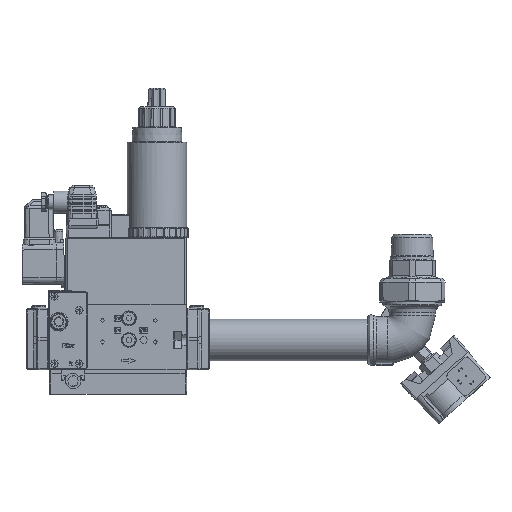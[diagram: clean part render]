
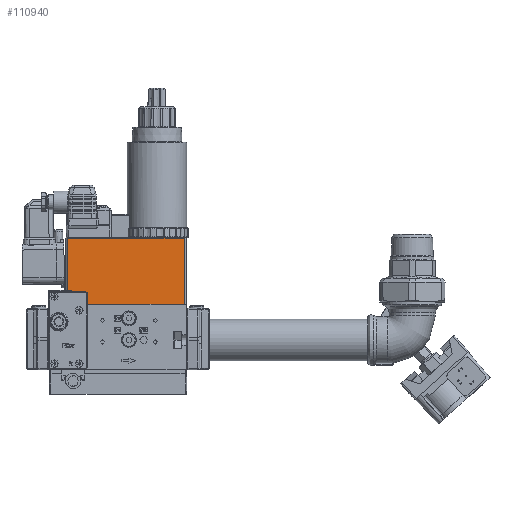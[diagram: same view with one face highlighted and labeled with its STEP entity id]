
A CAD part, top view. The second image highlights one B-rep face of the part: STEP entity #110940.
In plain terms, the highlighted planar face has unit normal (0, 0.009, 1).
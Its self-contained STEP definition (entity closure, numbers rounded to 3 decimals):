
#420 = FACE_OUTER_BOUND ( 'NONE', #80807, .T. ) ;
#1080 = CARTESIAN_POINT ( 'NONE',  ( -35.148, -49.801, 47.376 ) ) ;
#3985 = CARTESIAN_POINT ( 'NONE',  ( -21.8, -51.303, 47.389 ) ) ;
#9167 = ORIENTED_EDGE ( 'NONE', *, *, #35002, .T. ) ;
#11226 = DIRECTION ( 'NONE',  ( -0.009, 1., -0.009 ) ) ;
#14499 = CARTESIAN_POINT ( 'NONE',  ( -21.322, -52.195, 47.397 ) ) ;
#15458 = VECTOR ( 'NONE', #119264, 1000. ) ;
#15482 = CARTESIAN_POINT ( 'NONE',  ( -35.136, -51.195, 47.388 ) ) ;
#19372 = LINE ( 'NONE', #21623, #138141 ) ;
#20016 = CARTESIAN_POINT ( 'NONE',  ( -21.322, 6.358, 46.886 ) ) ;
#21305 = VERTEX_POINT ( 'NONE', #139347 ) ;
#21623 = CARTESIAN_POINT ( 'NONE',  ( -35.136, -51.195, 47.388 ) ) ;
#22361 = EDGE_CURVE ( 'NONE', #65450, #60379, #110186, .T. ) ;
#27605 = CARTESIAN_POINT ( 'NONE',  ( -38.771, 3.008, 46.915 ) ) ;
#33036 = LINE ( 'NONE', #145796, #47846 ) ;
#35002 = EDGE_CURVE ( 'NONE', #60379, #67151, #140701, .T. ) ;
#36393 = CARTESIAN_POINT ( 'NONE',  ( -45.028, 6.358, 46.886 ) ) ;
#36594 = LINE ( 'NONE', #27605, #15458 ) ;
#36994 = CARTESIAN_POINT ( 'NONE',  ( -22.06, -51.195, 47.388 ) ) ;
#37262 = EDGE_CURVE ( 'NONE', #39430, #59383, #61503, .T. ) ;
#37291 = VECTOR ( 'NONE', #38892, 1000. ) ;
#38892 = DIRECTION ( 'NONE',  ( 1., 0., 0. ) ) ;
#39430 = VERTEX_POINT ( 'NONE', #15482 ) ;
#41796 = CARTESIAN_POINT ( 'NONE',  ( -38.771, 3.008, 46.915 ) ) ;
#44190 = CARTESIAN_POINT ( 'NONE',  ( 79.337, 3.008, 46.915 ) ) ;
#46985 = PLANE ( 'NONE',  #113344 ) ;
#47846 = VECTOR ( 'NONE', #11226, 1000. ) ;
#51128 = ORIENTED_EDGE ( 'NONE', *, *, #37262, .T. ) ;
#51342 = CARTESIAN_POINT ( 'NONE',  ( -22.322, -51.195, 47.388 ) ) ;
#53072 = EDGE_CURVE ( 'NONE', #65450, #94648, #36594, .T. ) ;
#57134 = VECTOR ( 'NONE', #110045, 1000. ) ;
#59383 = VERTEX_POINT ( 'NONE', #86185 ) ;
#60379 = VERTEX_POINT ( 'NONE', #62195 ) ;
#61503 = LINE ( 'NONE', #129096, #37291 ) ;
#62195 = CARTESIAN_POINT ( 'NONE',  ( -39.078, -49.801, 47.376 ) ) ;
#62938 = EDGE_CURVE ( 'NONE', #59383, #121537, #120389, .T. ) ;
#65450 = VERTEX_POINT ( 'NONE', #98383 ) ;
#66027 = CARTESIAN_POINT ( 'NONE',  ( -21.322, -52.195, 47.397 ) ) ;
#67151 = VERTEX_POINT ( 'NONE', #1080 ) ;
#75486 = LINE ( 'NONE', #121324, #57134 ) ;
#77479 = ORIENTED_EDGE ( 'NONE', *, *, #53072, .F. ) ;
#79767 = EDGE_CURVE ( 'NONE', #121537, #139043, #144797, .T. ) ;
#80251 = VECTOR ( 'NONE', #94100, 1000. ) ;
#80807 = EDGE_LOOP ( 'NONE', ( #51128, #96866, #113184, #131074, #124296, #77479, #104091, #9167, #125421 ) ) ;
#82239 = DIRECTION ( 'NONE',  ( 0., 0.009, 1. ) ) ;
#82855 = CARTESIAN_POINT ( 'NONE',  ( -21.322, -51.933, 47.395 ) ) ;
#84351 = CARTESIAN_POINT ( 'NONE',  ( -21.43, -51.673, 47.392 ) ) ;
#86185 = CARTESIAN_POINT ( 'NONE',  ( -22.322, -51.195, 47.388 ) ) ;
#89906 = DIRECTION ( 'NONE',  ( 0., -1., 0.009 ) ) ;
#92563 = VECTOR ( 'NONE', #89906, 1000. ) ;
#94100 = DIRECTION ( 'NONE',  ( 1., 0., 0. ) ) ;
#94648 = VERTEX_POINT ( 'NONE', #44190 ) ;
#96866 = ORIENTED_EDGE ( 'NONE', *, *, #62938, .T. ) ;
#98383 = CARTESIAN_POINT ( 'NONE',  ( -38.771, 3.008, 46.915 ) ) ;
#99917 = EDGE_CURVE ( 'NONE', #39430, #67151, #19372, .T. ) ;
#100595 = DIRECTION ( 'NONE',  ( -0.009, 1., -0.009 ) ) ;
#104091 = ORIENTED_EDGE ( 'NONE', *, *, #22361, .T. ) ;
#110045 = DIRECTION ( 'NONE',  ( 1., 0., 0. ) ) ;
#110186 = LINE ( 'NONE', #41796, #115427 ) ;
#110940 = ADVANCED_FACE ( 'NONE', ( #420 ), #46985, .T. ) ;
#113184 = ORIENTED_EDGE ( 'NONE', *, *, #79767, .T. ) ;
#113344 = AXIS2_PLACEMENT_3D ( 'NONE', #36393, #82239, #116804 ) ;
#115427 = VECTOR ( 'NONE', #122201, 1000. ) ;
#116804 = DIRECTION ( 'NONE',  ( 0., -1., 0.009 ) ) ;
#119264 = DIRECTION ( 'NONE',  ( 1., 0., 0. ) ) ;
#120389 = B_SPLINE_CURVE_WITH_KNOTS ( 'NONE', 3,
 ( #51342, #36994, #3985, #84351, #82855, #14499 ),
 .UNSPECIFIED., .F., .F.,
 ( 4, 2, 4 ),
 ( 0., 0.001, 0.002 ),
 .UNSPECIFIED. ) ;
#121324 = CARTESIAN_POINT ( 'NONE',  ( -45.028, -64.001, 47.5 ) ) ;
#121537 = VERTEX_POINT ( 'NONE', #66027 ) ;
#122201 = DIRECTION ( 'NONE',  ( -0.006, -1., 0.009 ) ) ;
#124136 = EDGE_CURVE ( 'NONE', #21305, #94648, #33036, .T. ) ;
#124296 = ORIENTED_EDGE ( 'NONE', *, *, #124136, .T. ) ;
#125421 = ORIENTED_EDGE ( 'NONE', *, *, #99917, .F. ) ;
#128670 = CARTESIAN_POINT ( 'NONE',  ( -45.028, -49.801, 47.376 ) ) ;
#129096 = CARTESIAN_POINT ( 'NONE',  ( -45.028, -51.195, 47.388 ) ) ;
#130307 = EDGE_CURVE ( 'NONE', #139043, #21305, #75486, .T. ) ;
#131074 = ORIENTED_EDGE ( 'NONE', *, *, #130307, .T. ) ;
#138141 = VECTOR ( 'NONE', #100595, 1000. ) ;
#139043 = VERTEX_POINT ( 'NONE', #146203 ) ;
#139347 = CARTESIAN_POINT ( 'NONE',  ( 79.922, -64.001, 47.5 ) ) ;
#140701 = LINE ( 'NONE', #128670, #80251 ) ;
#144797 = LINE ( 'NONE', #20016, #92563 ) ;
#145796 = CARTESIAN_POINT ( 'NONE',  ( 79.922, -64.001, 47.5 ) ) ;
#146203 = CARTESIAN_POINT ( 'NONE',  ( -21.322, -64.001, 47.5 ) ) ;
